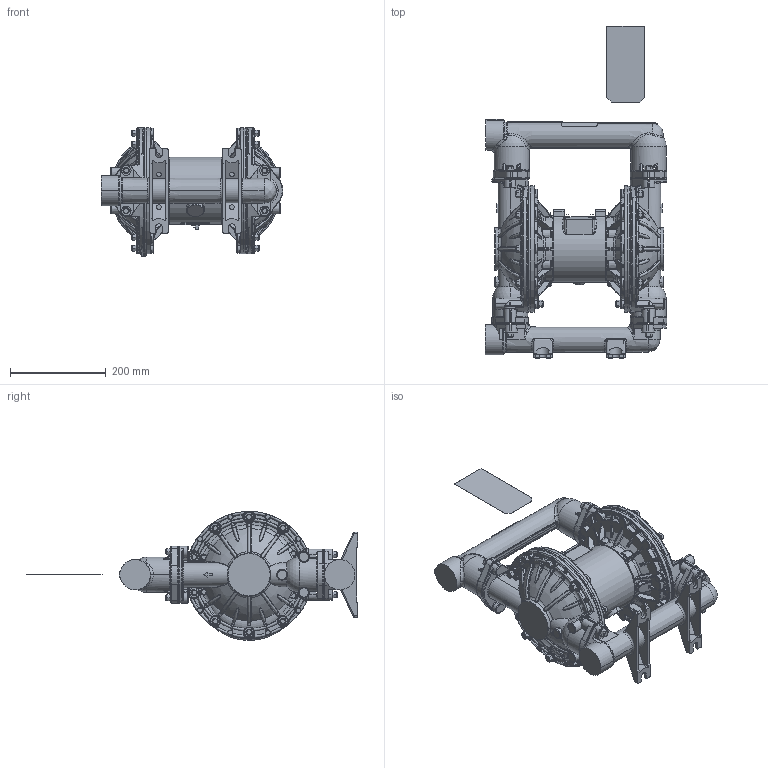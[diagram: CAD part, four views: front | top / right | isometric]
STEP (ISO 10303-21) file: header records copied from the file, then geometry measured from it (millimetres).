
FILE_DESCRIPTION((''),'2;1');
FILE_NAME('253485-EN-G_PRT','2022-02-14T12:24:53',('qtmwp1'),(''),'CREO PARAMETRIC BY PTC INC, 2021072','CREO PARAMETRIC BY PTC INC, 2021072','');
FILE_SCHEMA(('CONFIG_CONTROL_DESIGN'));
Length unit declared in the file: inch
Products named in the file (1): 253485-EN-G_PRT
Bounding box: 379.48 x 693.04 x 269.44 mm (x, y, z)
Surface area: 1054127.1 mm2 (no closed solid volume)
Topology: 0 solids, 190 shells, 3223 faces, 12059 edges, 8619 vertices
Faces by surface type: plane 837, torus 655, bspline 637, cone 587, cylinder 465, sphere 29, extrusion 9, revolution 4
Entity records: 261008 total; most frequent: CARTESIAN_POINT 174750, ORIENTED_EDGE 16816, DIRECTION 15452, EDGE_CURVE 12059, VERTEX_POINT 8619, AXIS2_PLACEMENT_3D 6564, B_SPLINE_CURVE_WITH_KNOTS 5770, CIRCLE 3991
